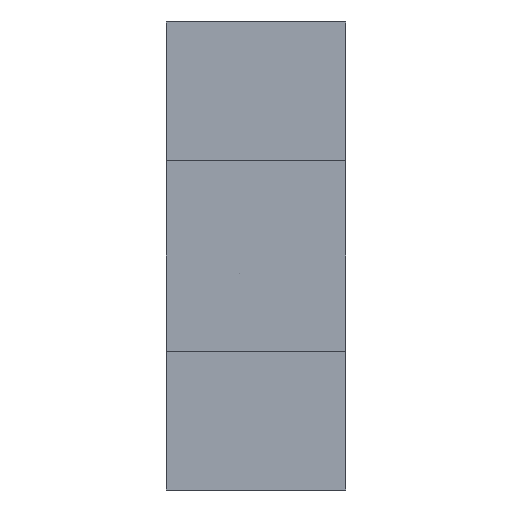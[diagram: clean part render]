
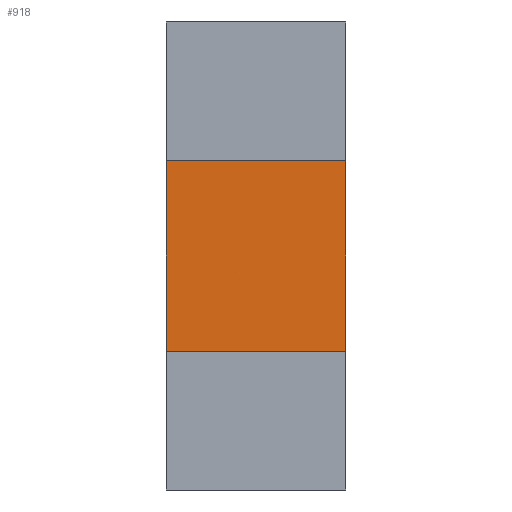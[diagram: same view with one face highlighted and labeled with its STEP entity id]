
A CAD part, front view. The second image highlights one B-rep face of the part: STEP entity #918.
In plain terms, the highlighted planar face has unit normal (0, -1, 0).
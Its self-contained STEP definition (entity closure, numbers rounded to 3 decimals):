
#431=CARTESIAN_POINT('',(3.3,435.,-49.5));
#432=VERTEX_POINT('',#431);
#439=CARTESIAN_POINT('',(-3.3,435.,-49.5));
#440=VERTEX_POINT('',#439);
#441=CARTESIAN_POINT('',(3.3,435.,-49.5));
#442=DIRECTION('',(-1.,0.,0.));
#443=VECTOR('',#442,6.6);
#444=LINE('',#441,#443);
#445=EDGE_CURVE('',#432,#440,#444,.T.);
#553=CARTESIAN_POINT('',(-3.3,435.,-42.5));
#554=VERTEX_POINT('',#553);
#555=CARTESIAN_POINT('',(-3.3,435.,-49.5));
#556=DIRECTION('',(0.,0.,1.));
#557=VECTOR('',#556,7.);
#558=LINE('',#555,#557);
#559=EDGE_CURVE('',#440,#554,#558,.T.);
#718=CARTESIAN_POINT('',(3.3,435.,-42.5));
#719=VERTEX_POINT('',#718);
#720=CARTESIAN_POINT('',(-3.3,435.,-42.5));
#721=DIRECTION('',(1.,-0.,0.));
#722=VECTOR('',#721,6.6);
#723=LINE('',#720,#722);
#724=EDGE_CURVE('',#554,#719,#723,.T.);
#874=CARTESIAN_POINT('',(3.3,435.,-49.5));
#875=DIRECTION('',(0.,0.,1.));
#876=VECTOR('',#875,7.);
#877=LINE('',#874,#876);
#878=EDGE_CURVE('',#432,#719,#877,.T.);
#907=CARTESIAN_POINT('',(0.,435.,0.));
#908=DIRECTION('',(0.,1.,0.));
#909=DIRECTION('',(0.,0.,1.));
#910=AXIS2_PLACEMENT_3D('',#907,#908,#909);
#911=PLANE('',#910);
#912=ORIENTED_EDGE('',*,*,#559,.F.);
#913=ORIENTED_EDGE('',*,*,#445,.F.);
#914=ORIENTED_EDGE('',*,*,#878,.T.);
#915=ORIENTED_EDGE('',*,*,#724,.F.);
#916=EDGE_LOOP('',(#912,#913,#914,#915));
#917=FACE_BOUND('',#916,.T.);
#918=ADVANCED_FACE('',(#917),#911,.F.);
